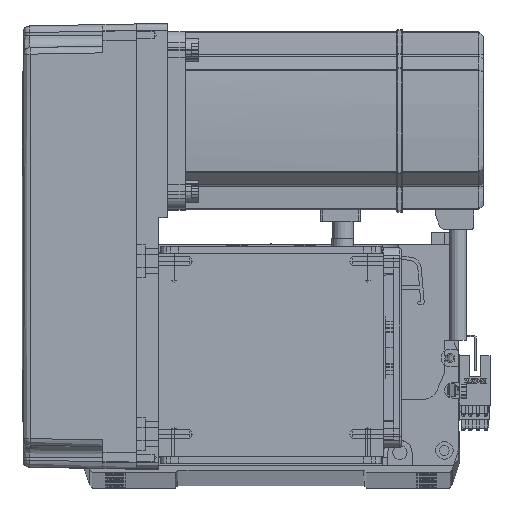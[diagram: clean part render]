
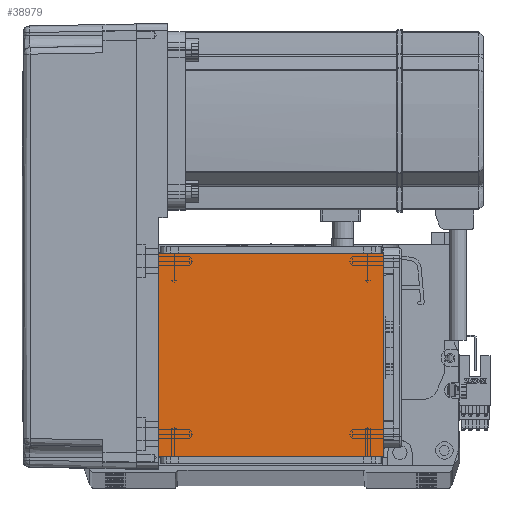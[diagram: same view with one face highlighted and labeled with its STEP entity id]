
A CAD part, top view. The second image highlights one B-rep face of the part: STEP entity #38979.
In plain terms, the highlighted planar face has unit normal (0, 0, 1).
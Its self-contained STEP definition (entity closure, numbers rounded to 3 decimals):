
#1245 = EDGE_CURVE ( 'NONE', #2207, #3105, #45444, .T. ) ;
#1397 = ORIENTED_EDGE ( 'NONE', *, *, #25903, .F. ) ;
#2207 = VERTEX_POINT ( 'NONE', #30203 ) ;
#2540 = PLANE ( 'NONE',  #21633 ) ;
#3105 = VERTEX_POINT ( 'NONE', #50522 ) ;
#3227 = CARTESIAN_POINT ( 'NONE',  ( -70.004, 20., 115. ) ) ;
#5286 = CARTESIAN_POINT ( 'NONE',  ( -70.004, 111.5, 115. ) ) ;
#5419 = CARTESIAN_POINT ( 'NONE',  ( 50.5, 20., 115. ) ) ;
#7103 = CARTESIAN_POINT ( 'NONE',  ( 50.5, 122., 115. ) ) ;
#10299 = VECTOR ( 'NONE', #12915, 1000. ) ;
#12915 = DIRECTION ( 'NONE',  ( 0., -1., 0. ) ) ;
#13389 = CARTESIAN_POINT ( 'NONE',  ( -50.5, 122., 115. ) ) ;
#19020 = CARTESIAN_POINT ( 'NONE',  ( 0., 0., 115. ) ) ;
#21633 = AXIS2_PLACEMENT_3D ( 'NONE', #19020, #35281, #45629 ) ;
#25903 = EDGE_CURVE ( 'NONE', #36269, #27925, #60155, .T. ) ;
#27925 = VERTEX_POINT ( 'NONE', #31770 ) ;
#30203 = CARTESIAN_POINT ( 'NONE',  ( -50.5, 111.5, 115. ) ) ;
#31173 = VECTOR ( 'NONE', #42943, 1000. ) ;
#31770 = CARTESIAN_POINT ( 'NONE',  ( -50.5, 20., 115. ) ) ;
#33287 = EDGE_LOOP ( 'NONE', ( #41266, #65135, #1397, #35326 ) ) ;
#35281 = DIRECTION ( 'NONE',  ( 0., 0., 1. ) ) ;
#35326 = ORIENTED_EDGE ( 'NONE', *, *, #35869, .T. ) ;
#35869 = EDGE_CURVE ( 'NONE', #36269, #3105, #47726, .T. ) ;
#36269 = VERTEX_POINT ( 'NONE', #5419 ) ;
#38979 = ADVANCED_FACE ( 'NONE', ( #49906 ), #2540, .T. ) ;
#39387 = DIRECTION ( 'NONE',  ( 0., 1., 0. ) ) ;
#41266 = ORIENTED_EDGE ( 'NONE', *, *, #1245, .F. ) ;
#42943 = DIRECTION ( 'NONE',  ( 1., 0., 0. ) ) ;
#45444 = LINE ( 'NONE', #5286, #31173 ) ;
#45629 = DIRECTION ( 'NONE',  ( 1., 0., 0. ) ) ;
#47726 = LINE ( 'NONE', #7103, #64632 ) ;
#49906 = FACE_OUTER_BOUND ( 'NONE', #33287, .T. ) ;
#50522 = CARTESIAN_POINT ( 'NONE',  ( 50.5, 111.5, 115. ) ) ;
#55973 = VECTOR ( 'NONE', #56472, 1000. ) ;
#56472 = DIRECTION ( 'NONE',  ( -1., 0., 0. ) ) ;
#57488 = LINE ( 'NONE', #13389, #10299 ) ;
#60155 = LINE ( 'NONE', #3227, #55973 ) ;
#63772 = EDGE_CURVE ( 'NONE', #2207, #27925, #57488, .T. ) ;
#64632 = VECTOR ( 'NONE', #39387, 1000. ) ;
#65135 = ORIENTED_EDGE ( 'NONE', *, *, #63772, .T. ) ;
